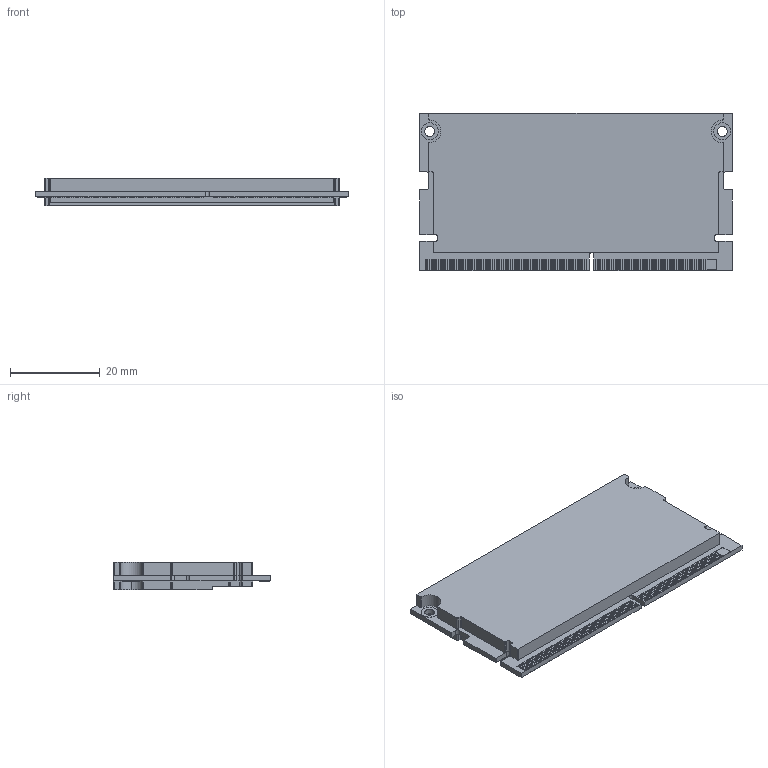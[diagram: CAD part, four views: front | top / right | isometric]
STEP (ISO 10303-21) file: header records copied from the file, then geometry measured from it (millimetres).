
FILE_DESCRIPTION (( 'STEP AP214' ), '1' );
FILE_NAME ('Verdin Module Max Components6.STEP', '2020-08-18T20:45:31', ( '' ), ( '' ), 'SwSTEP 2.0', 'SolidWorks 2020', '' );
FILE_SCHEMA (( 'AUTOMOTIVE_DESIGN' ));
Length unit declared in the file: millimetre
Products named in the file (1): Verdin Module Max Components6
Bounding box: 69.6 x 35 x 6.2 mm (x, y, z)
Volume: 12294.7 mm3; surface area: 14509.5 mm2
Topology: 255 solids, 255 shells, 1644 faces, 3402 edges, 2268 vertices
Faces by surface type: plane 1563, cylinder 81
Entity records: 61246 total; most frequent: CARTESIAN_POINT 7315, DIRECTION 6854, ORIENTED_EDGE 6804, EDGE_CURVE 3402, LINE 3240, VECTOR 3240, VERTEX_POINT 2268, AXIS2_PLACEMENT_3D 1807
